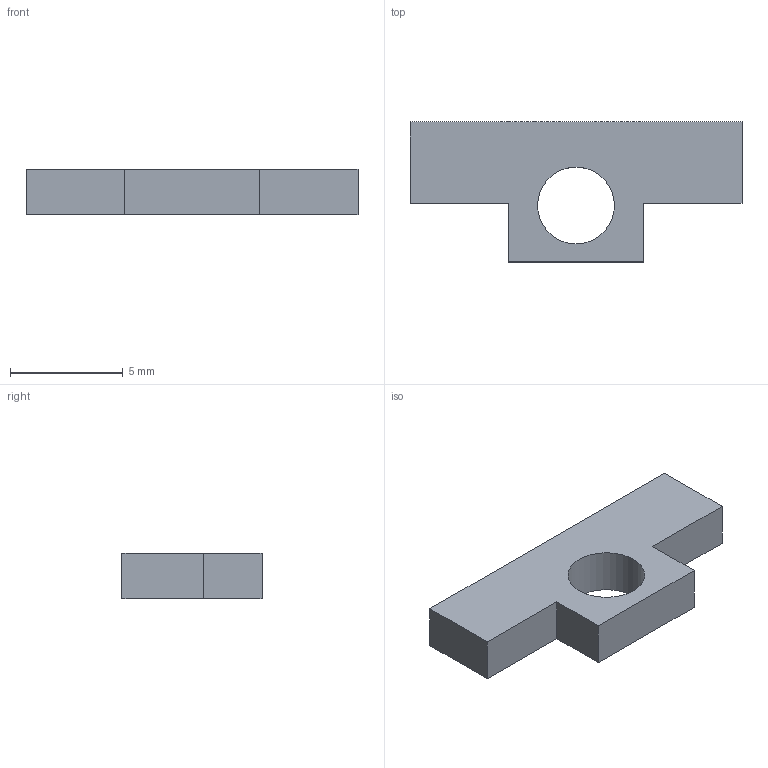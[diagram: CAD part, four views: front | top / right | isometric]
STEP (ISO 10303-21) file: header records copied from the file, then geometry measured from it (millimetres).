
FILE_DESCRIPTION(('Open CASCADE Model'),'2;1');
FILE_NAME('Open CASCADE Shape Model','2026-10-05T13:24:20',('Author'),( 'Open CASCADE'),'Open CASCADE STEP processor 7.8','Open CASCADE 7.8' ,'Unknown');
FILE_SCHEMA(('AUTOMOTIVE_DESIGN { 1 0 10303 214 1 1 1 1 }'));
Length unit declared in the file: millimetre
Products named in the file (1): Open CASCADE STEP translator 7.8 19
Bounding box: 14.7 x 6.2 x 2 mm (x, y, z)
Volume: 118.9 mm3; surface area: 223.8 mm2
Topology: 1 solids, 1 shells, 11 faces, 27 edges, 18 vertices
Faces by surface type: plane 10, cylinder 1
Full cylindrical faces by diameter (mm): 3.4 x1
Entity records: 690 total; most frequent: CARTESIAN_POINT 127, DIRECTION 101, LINE 73, VECTOR 73, ORIENTED_EDGE 54, PCURVE 54, DEFINITIONAL_REPRESENTATION 54, EDGE_CURVE 27
